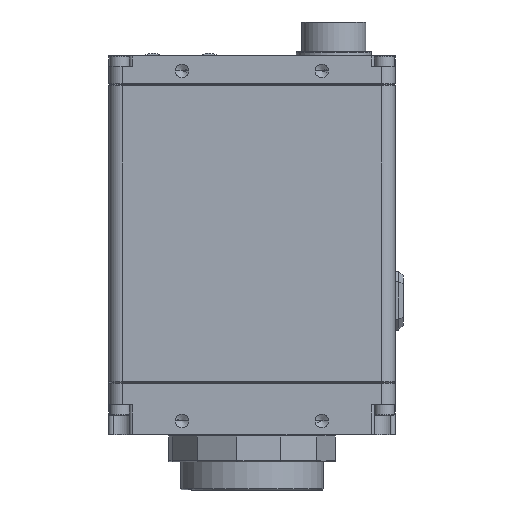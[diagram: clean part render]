
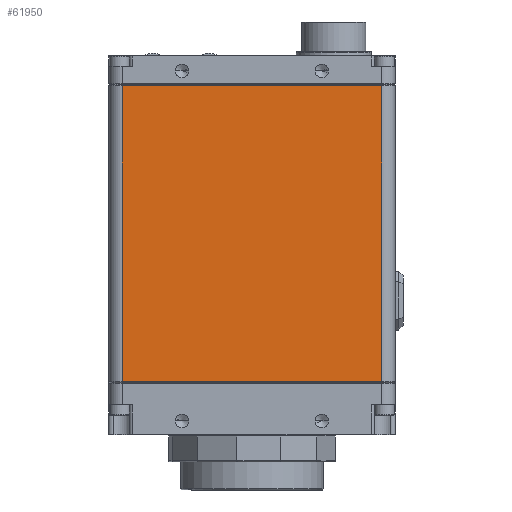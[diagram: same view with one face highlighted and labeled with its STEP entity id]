
A CAD part, front view. The second image highlights one B-rep face of the part: STEP entity #61950.
In plain terms, the highlighted planar face has unit normal (0, -1, 0) as drawn and (0, 1, 0) by its records, which use the part's own axes.
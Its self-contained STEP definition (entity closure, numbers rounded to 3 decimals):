
#2580 = EDGE_CURVE ( 'NONE', #198061, #205485, #115080, .T. ) ;
#2624 = EDGE_CURVE ( 'NONE', #205485, #18149, #90990, .T. ) ;
#4416 = VECTOR ( 'NONE', #13660, 1000. ) ;
#13660 = DIRECTION ( 'NONE',  ( 0., 0., 1. ) ) ;
#14193 = CARTESIAN_POINT ( 'NONE',  ( 24.13, 16.51, 61.214 ) ) ;
#18149 = VERTEX_POINT ( 'NONE', #91942 ) ;
#20638 = CARTESIAN_POINT ( 'NONE',  ( -26.67, 16.51, 5.944 ) ) ;
#22580 = DIRECTION ( 'NONE',  ( 1., 0., 0. ) ) ;
#24783 = DIRECTION ( 'NONE',  ( -1., 0., 0. ) ) ;
#25414 = CARTESIAN_POINT ( 'NONE',  ( -26.67, 16.51, 60.96 ) ) ;
#27234 = VECTOR ( 'NONE', #65555, 1000. ) ;
#27471 = EDGE_CURVE ( 'NONE', #174270, #198061, #150790, .T. ) ;
#61950 = ADVANCED_FACE ( 'NONE', ( #97303 ), #103005, .F. ) ;
#63177 = CARTESIAN_POINT ( 'NONE',  ( -24.13, 16.51, 61.214 ) ) ;
#64152 = ORIENTED_EDGE ( 'NONE', *, *, #139355, .F. ) ;
#65555 = DIRECTION ( 'NONE',  ( 0., 0., -1. ) ) ;
#71428 = VECTOR ( 'NONE', #24783, 1000. ) ;
#85526 = ORIENTED_EDGE ( 'NONE', *, *, #27471, .F. ) ;
#90990 = LINE ( 'NONE', #14193, #4416 ) ;
#91942 = CARTESIAN_POINT ( 'NONE',  ( 24.13, 16.51, 60.96 ) ) ;
#97303 = FACE_OUTER_BOUND ( 'NONE', #129551, .T. ) ;
#100923 = DIRECTION ( 'NONE',  ( 1., 0., 0. ) ) ;
#101205 = DIRECTION ( 'NONE',  ( 0., -1., 0. ) ) ;
#101446 = CARTESIAN_POINT ( 'NONE',  ( -26.67, 16.51, 61.214 ) ) ;
#103005 = PLANE ( 'NONE',  #183024 ) ;
#106152 = CARTESIAN_POINT ( 'NONE',  ( -24.13, 16.51, 60.96 ) ) ;
#114176 = LINE ( 'NONE', #25414, #71428 ) ;
#115080 = LINE ( 'NONE', #20638, #197425 ) ;
#129551 = EDGE_LOOP ( 'NONE', ( #133281, #85526, #64152, #198630 ) ) ;
#133281 = ORIENTED_EDGE ( 'NONE', *, *, #2580, .F. ) ;
#135710 = CARTESIAN_POINT ( 'NONE',  ( 24.13, 16.51, 5.944 ) ) ;
#139355 = EDGE_CURVE ( 'NONE', #18149, #174270, #114176, .T. ) ;
#146657 = CARTESIAN_POINT ( 'NONE',  ( -24.13, 16.51, 5.944 ) ) ;
#150790 = LINE ( 'NONE', #63177, #27234 ) ;
#174270 = VERTEX_POINT ( 'NONE', #106152 ) ;
#183024 = AXIS2_PLACEMENT_3D ( 'NONE', #101446, #101205, #100923 ) ;
#197425 = VECTOR ( 'NONE', #22580, 1000. ) ;
#198061 = VERTEX_POINT ( 'NONE', #146657 ) ;
#198630 = ORIENTED_EDGE ( 'NONE', *, *, #2624, .F. ) ;
#205485 = VERTEX_POINT ( 'NONE', #135710 ) ;
